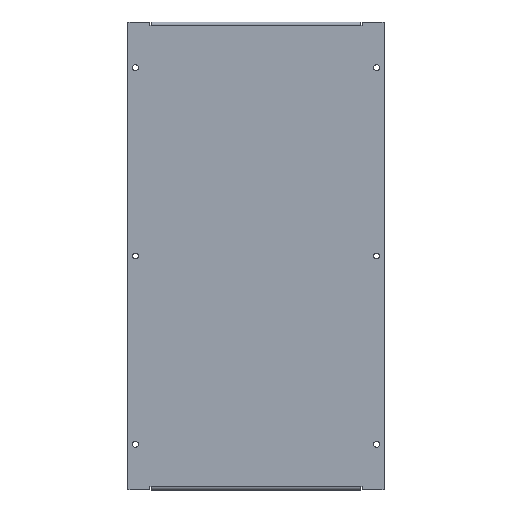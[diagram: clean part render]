
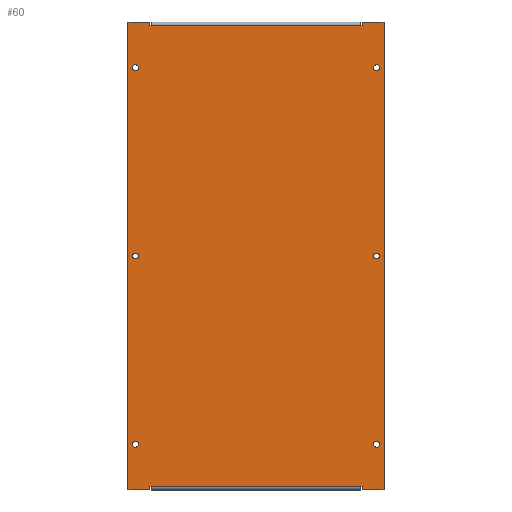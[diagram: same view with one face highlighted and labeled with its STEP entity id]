
A CAD part, top view. The second image highlights one B-rep face of the part: STEP entity #60.
In plain terms, the highlighted planar face has unit normal (0, 0, 1).
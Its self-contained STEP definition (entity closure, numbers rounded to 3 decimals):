
#60=ADVANCED_FACE('',(#166,#168,#170,#172,#174,#176,#178),#180,.F.);
#166=FACE_BOUND('',#167,.T.);
#167=EDGE_LOOP('',(#443,#444,#445,#446,#447,#448,#449,#450,#451,#452,#453,#454,#455,
#456,#457,#458));
#168=FACE_BOUND('',#169,.T.);
#169=EDGE_LOOP('',(#459));
#170=FACE_BOUND('',#171,.T.);
#171=EDGE_LOOP('',(#460));
#172=FACE_BOUND('',#173,.T.);
#173=EDGE_LOOP('',(#461));
#174=FACE_BOUND('',#175,.T.);
#175=EDGE_LOOP('',(#462));
#176=FACE_BOUND('',#177,.T.);
#177=EDGE_LOOP('',(#463));
#178=FACE_BOUND('',#179,.T.);
#179=EDGE_LOOP('',(#464));
#180=PLANE('',#181);
#181=AXIS2_PLACEMENT_3D('',#182,#183,#184);
#182=CARTESIAN_POINT('',(0.,0.,0.));
#183=DIRECTION('',(0.,0.,-1.));
#184=DIRECTION('',(-1.,0.,0.));
#443=ORIENTED_EDGE('',*,*,#621,.F.);
#444=ORIENTED_EDGE('',*,*,#622,.T.);
#445=ORIENTED_EDGE('',*,*,#623,.F.);
#446=ORIENTED_EDGE('',*,*,#624,.F.);
#447=ORIENTED_EDGE('',*,*,#625,.T.);
#448=ORIENTED_EDGE('',*,*,#626,.T.);
#449=ORIENTED_EDGE('',*,*,#627,.T.);
#450=ORIENTED_EDGE('',*,*,#628,.F.);
#451=ORIENTED_EDGE('',*,*,#629,.F.);
#452=ORIENTED_EDGE('',*,*,#630,.T.);
#453=ORIENTED_EDGE('',*,*,#631,.F.);
#454=ORIENTED_EDGE('',*,*,#632,.F.);
#455=ORIENTED_EDGE('',*,*,#633,.T.);
#456=ORIENTED_EDGE('',*,*,#634,.T.);
#457=ORIENTED_EDGE('',*,*,#635,.T.);
#458=ORIENTED_EDGE('',*,*,#636,.F.);
#459=ORIENTED_EDGE('',*,*,#593,.T.);
#460=ORIENTED_EDGE('',*,*,#595,.T.);
#461=ORIENTED_EDGE('',*,*,#597,.T.);
#462=ORIENTED_EDGE('',*,*,#599,.F.);
#463=ORIENTED_EDGE('',*,*,#601,.F.);
#464=ORIENTED_EDGE('',*,*,#603,.F.);
#593=EDGE_CURVE('',#685,#685,#686,.T.);
#595=EDGE_CURVE('',#689,#689,#690,.T.);
#597=EDGE_CURVE('',#693,#693,#694,.T.);
#599=EDGE_CURVE('',#697,#697,#698,.T.);
#601=EDGE_CURVE('',#701,#701,#702,.T.);
#603=EDGE_CURVE('',#705,#705,#706,.T.);
#621=EDGE_CURVE('',#741,#742,#743,.T.);
#622=EDGE_CURVE('',#741,#744,#745,.T.);
#623=EDGE_CURVE('',#746,#744,#747,.T.);
#624=EDGE_CURVE('',#748,#746,#749,.T.);
#625=EDGE_CURVE('',#748,#750,#751,.T.);
#626=EDGE_CURVE('',#750,#752,#753,.T.);
#627=EDGE_CURVE('',#752,#754,#755,.T.);
#628=EDGE_CURVE('',#756,#754,#757,.T.);
#629=EDGE_CURVE('',#758,#756,#759,.T.);
#630=EDGE_CURVE('',#758,#760,#761,.T.);
#631=EDGE_CURVE('',#762,#760,#763,.T.);
#632=EDGE_CURVE('',#764,#762,#765,.T.);
#633=EDGE_CURVE('',#764,#766,#767,.T.);
#634=EDGE_CURVE('',#766,#768,#769,.T.);
#635=EDGE_CURVE('',#768,#770,#771,.T.);
#636=EDGE_CURVE('',#742,#770,#772,.T.);
#685=VERTEX_POINT('',#837);
#686=CIRCLE('',#838,3.15);
#689=VERTEX_POINT('',#847);
#690=CIRCLE('',#848,3.15);
#693=VERTEX_POINT('',#857);
#694=CIRCLE('',#858,3.15);
#697=VERTEX_POINT('',#867);
#698=CIRCLE('',#868,3.15);
#701=VERTEX_POINT('',#877);
#702=CIRCLE('',#878,3.15);
#705=VERTEX_POINT('',#887);
#706=CIRCLE('',#888,3.15);
#741=VERTEX_POINT('',#961);
#742=VERTEX_POINT('',#962);
#743=LINE('',#963,#964);
#744=VERTEX_POINT('',#966);
#745=LINE('',#967,#968);
#746=VERTEX_POINT('',#970);
#747=LINE('',#971,#972);
#748=VERTEX_POINT('',#974);
#749=LINE('',#975,#976);
#750=VERTEX_POINT('',#978);
#751=LINE('',#979,#980);
#752=VERTEX_POINT('',#982);
#753=LINE('',#983,#984);
#754=VERTEX_POINT('',#986);
#755=LINE('',#987,#988);
#756=VERTEX_POINT('',#990);
#757=LINE('',#991,#992);
#758=VERTEX_POINT('',#994);
#759=LINE('',#995,#996);
#760=VERTEX_POINT('',#998);
#761=LINE('',#999,#1000);
#762=VERTEX_POINT('',#1002);
#763=LINE('',#1003,#1004);
#764=VERTEX_POINT('',#1006);
#765=LINE('',#1007,#1008);
#766=VERTEX_POINT('',#1010);
#767=LINE('',#1011,#1012);
#768=VERTEX_POINT('',#1014);
#769=LINE('',#1015,#1016);
#770=VERTEX_POINT('',#1018);
#771=LINE('',#1019,#1020);
#772=LINE('',#1022,#1023);
#837=CARTESIAN_POINT('',(131.15,200.,0.));
#838=AXIS2_PLACEMENT_3D('',#839,#840,#841);
#839=CARTESIAN_POINT('',(128.,200.,0.));
#840=DIRECTION('',(0.,0.,-1.));
#841=DIRECTION('',(1.,0.,0.));
#847=CARTESIAN_POINT('',(131.15,-200.,0.));
#848=AXIS2_PLACEMENT_3D('',#849,#850,#851);
#849=CARTESIAN_POINT('',(128.,-200.,0.));
#850=DIRECTION('',(0.,0.,-1.));
#851=DIRECTION('',(1.,0.,0.));
#857=CARTESIAN_POINT('',(131.15,0.,0.));
#858=AXIS2_PLACEMENT_3D('',#859,#860,#861);
#859=CARTESIAN_POINT('',(128.,0.,0.));
#860=DIRECTION('',(0.,0.,-1.));
#861=DIRECTION('',(1.,0.,0.));
#867=CARTESIAN_POINT('',(-124.85,200.,0.));
#868=AXIS2_PLACEMENT_3D('',#869,#870,#871);
#869=CARTESIAN_POINT('',(-128.,200.,0.));
#870=DIRECTION('',(0.,0.,1.));
#871=DIRECTION('',(-1.,0.,0.));
#877=CARTESIAN_POINT('',(-124.85,-200.,0.));
#878=AXIS2_PLACEMENT_3D('',#879,#880,#881);
#879=CARTESIAN_POINT('',(-128.,-200.,0.));
#880=DIRECTION('',(0.,0.,1.));
#881=DIRECTION('',(-1.,0.,0.));
#887=CARTESIAN_POINT('',(-124.85,0.,0.));
#888=AXIS2_PLACEMENT_3D('',#889,#890,#891);
#889=CARTESIAN_POINT('',(-128.,0.,0.));
#890=DIRECTION('',(0.,0.,1.));
#891=DIRECTION('',(-1.,0.,0.));
#961=CARTESIAN_POINT('',(111.,245.3,0.));
#962=CARTESIAN_POINT('',(113.,245.3,0.));
#963=CARTESIAN_POINT('',(111.,245.3,0.));
#964=VECTOR('',#965,1.);
#965=DIRECTION('',(1.,0.,0.));
#966=CARTESIAN_POINT('',(-111.,245.3,0.));
#967=CARTESIAN_POINT('',(111.,245.3,0.));
#968=VECTOR('',#969,1.);
#969=DIRECTION('',(-1.,0.,0.));
#970=CARTESIAN_POINT('',(-113.,245.3,0.));
#971=CARTESIAN_POINT('',(-113.,245.3,0.));
#972=VECTOR('',#973,1.);
#973=DIRECTION('',(1.,0.,0.));
#974=CARTESIAN_POINT('',(-113.,248.5,0.));
#975=CARTESIAN_POINT('',(-113.,248.5,0.));
#976=VECTOR('',#977,1.);
#977=DIRECTION('',(0.,-1.,0.));
#978=CARTESIAN_POINT('',(-136.,248.5,0.));
#979=CARTESIAN_POINT('',(-113.,248.5,0.));
#980=VECTOR('',#981,1.);
#981=DIRECTION('',(-1.,0.,0.));
#982=CARTESIAN_POINT('',(-136.,-248.5,0.));
#983=CARTESIAN_POINT('',(-136.,248.5,0.));
#984=VECTOR('',#985,1.);
#985=DIRECTION('',(0.,-1.,0.));
#986=CARTESIAN_POINT('',(-113.,-248.5,0.));
#987=CARTESIAN_POINT('',(-136.,-248.5,0.));
#988=VECTOR('',#989,1.);
#989=DIRECTION('',(1.,0.,0.));
#990=CARTESIAN_POINT('',(-113.,-245.3,0.));
#991=CARTESIAN_POINT('',(-113.,-245.3,0.));
#992=VECTOR('',#993,1.);
#993=DIRECTION('',(0.,-1.,0.));
#994=CARTESIAN_POINT('',(-111.,-245.3,0.));
#995=CARTESIAN_POINT('',(-111.,-245.3,0.));
#996=VECTOR('',#997,1.);
#997=DIRECTION('',(-1.,0.,0.));
#998=CARTESIAN_POINT('',(111.,-245.3,0.));
#999=CARTESIAN_POINT('',(-111.,-245.3,0.));
#1000=VECTOR('',#1001,1.);
#1001=DIRECTION('',(1.,0.,0.));
#1002=CARTESIAN_POINT('',(113.,-245.3,0.));
#1003=CARTESIAN_POINT('',(113.,-245.3,0.));
#1004=VECTOR('',#1005,1.);
#1005=DIRECTION('',(-1.,0.,0.));
#1006=CARTESIAN_POINT('',(113.,-248.5,0.));
#1007=CARTESIAN_POINT('',(113.,-248.5,0.));
#1008=VECTOR('',#1009,1.);
#1009=DIRECTION('',(0.,1.,0.));
#1010=CARTESIAN_POINT('',(136.,-248.5,0.));
#1011=CARTESIAN_POINT('',(113.,-248.5,0.));
#1012=VECTOR('',#1013,1.);
#1013=DIRECTION('',(1.,0.,0.));
#1014=CARTESIAN_POINT('',(136.,248.5,0.));
#1015=CARTESIAN_POINT('',(136.,-248.5,0.));
#1016=VECTOR('',#1017,1.);
#1017=DIRECTION('',(0.,1.,0.));
#1018=CARTESIAN_POINT('',(113.,248.5,0.));
#1019=CARTESIAN_POINT('',(136.,248.5,0.));
#1020=VECTOR('',#1021,1.);
#1021=DIRECTION('',(-1.,0.,0.));
#1022=CARTESIAN_POINT('',(113.,245.3,0.));
#1023=VECTOR('',#1024,1.);
#1024=DIRECTION('',(0.,1.,0.));
